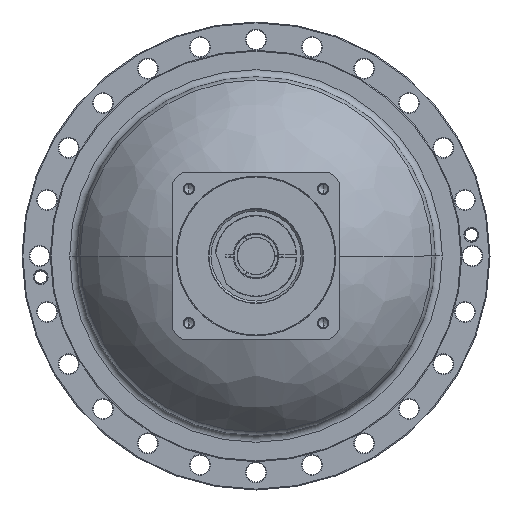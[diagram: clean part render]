
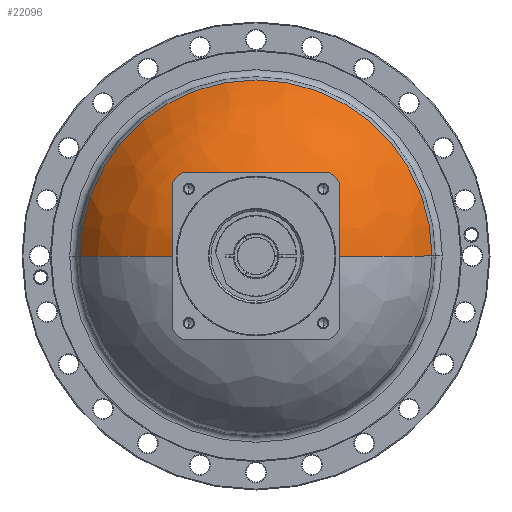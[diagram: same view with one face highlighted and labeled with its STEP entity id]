
A CAD part, left-side view. The second image highlights one B-rep face of the part: STEP entity #22096.
In plain terms, the highlighted free-form (B-spline) face has degree [3, 3] with [7, 4] control points.
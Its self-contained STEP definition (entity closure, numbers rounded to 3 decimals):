
#21604=CARTESIAN_POINT('',(-11.992,0.,0.));
#21605=DIRECTION('',(-1.,0.,0.));
#21606=DIRECTION('',(0.,-1.,0.));
#21607=AXIS2_PLACEMENT_3D('',#21604,#21605,#21606);
#21609=CARTESIAN_POINT('',(-97.009,0.,0.));
#21610=DIRECTION('',(1.,0.,0.));
#21611=DIRECTION('',(0.,1.,0.));
#21612=AXIS2_PLACEMENT_3D('',#21609,#21610,#21611);
#21619=CARTESIAN_POINT('',(-200.939,28.484,0.));
#21620=DIRECTION('',(0.,0.,-1.));
#21621=DIRECTION('',(0.52,0.854,0.));
#21622=AXIS2_PLACEMENT_3D('',#21619,#21620,#21621);
#21629=CARTESIAN_POINT('',(-200.939,-28.484,0.));
#21630=DIRECTION('',(0.,0.,1.));
#21631=DIRECTION('',(0.52,-0.854,0.));
#21632=AXIS2_PLACEMENT_3D('',#21629,#21630,#21631);
#21866=CARTESIAN_POINT('',(-97.009,199.359,
0.));
#21867=CARTESIAN_POINT('',(-97.009,-199.359,0.));
#21868=VERTEX_POINT('',#21866);
#21869=VERTEX_POINT('',#21867);
#21878=CARTESIAN_POINT('',(-11.992,94.05,
0.));
#21879=CARTESIAN_POINT('',(-11.992,-94.05,
0.));
#21880=VERTEX_POINT('',#21878);
#21881=VERTEX_POINT('',#21879);
#22058=CARTESIAN_POINT('',(-99.378,200.382,
-12.607));
#22059=CARTESIAN_POINT('',(-57.233,175.588,
-11.047));
#22060=CARTESIAN_POINT('',(-26.503,137.598,
-8.657));
#22061=CARTESIAN_POINT('',(-11.105,91.254,
-5.741));
#22062=CARTESIAN_POINT('',(-99.378,208.14,
110.708));
#22063=CARTESIAN_POINT('',(-57.233,182.386,
97.01));
#22064=CARTESIAN_POINT('',(-26.503,142.925,
76.021));
#22065=CARTESIAN_POINT('',(-11.105,94.787,
50.416));
#22066=CARTESIAN_POINT('',(-99.378,123.559,
200.778));
#22067=CARTESIAN_POINT('',(-57.233,108.27,
175.935));
#22068=CARTESIAN_POINT('',(-26.503,84.845,
137.87));
#22069=CARTESIAN_POINT('',(-11.105,56.269,
91.435));
#22070=CARTESIAN_POINT('',(-99.378,0.,
200.778));
#22071=CARTESIAN_POINT('',(-57.233,0.,
175.935));
#22072=CARTESIAN_POINT('',(-26.503,0.,137.87));
#22073=CARTESIAN_POINT('',(-11.105,0.,91.435));
#22074=CARTESIAN_POINT('',(-99.378,-123.559,
200.778));
#22075=CARTESIAN_POINT('',(-57.233,-108.27,
175.935));
#22076=CARTESIAN_POINT('',(-26.503,-84.845,
137.87));
#22077=CARTESIAN_POINT('',(-11.105,-56.269,
91.435));
#22078=CARTESIAN_POINT('',(-99.378,-208.14,
110.708));
#22079=CARTESIAN_POINT('',(-57.233,-182.386,
97.01));
#22080=CARTESIAN_POINT('',(-26.503,-142.925,
76.021));
#22081=CARTESIAN_POINT('',(-11.105,-94.787,
50.416));
#22082=CARTESIAN_POINT('',(-99.378,-200.382,
-12.607));
#22083=CARTESIAN_POINT('',(-57.233,-175.588,
-11.047));
#22084=CARTESIAN_POINT('',(-26.503,-137.598,
-8.657));
#22085=CARTESIAN_POINT('',(-11.105,-91.254,
-5.741));
#22086=(BOUNDED_SURFACE()B_SPLINE_SURFACE(3,3,((#22058,#22059,#22060,#22061),(
#22062,#22063,#22064,#22065),(#22066,#22067,#22068,#22069),(#22070,#22071,
#22072,#22073),(#22074,#22075,#22076,#22077),(#22078,#22079,#22080,#22081),(
#22082,#22083,#22084,#22085)),.UNSPECIFIED.,.F.,.F.,.F.)B_SPLINE_SURFACE_WITH_KNOTS((4,3,4),(4,4),(0.,1.,2.),(0.,1.),.UNSPECIFIED.)GEOMETRIC_REPRESENTATION_ITEM()RATIONAL_B_SPLINE_SURFACE(((1.226,1.174,
1.174,1.226),(0.968,0.927,
0.927,0.968),(0.968,0.927,
0.927,0.968),(1.226,1.174,
1.174,1.226),(0.968,0.927,
0.927,0.968),(0.968,0.927,
0.927,0.968),(1.226,1.174,
1.174,1.226)))REPRESENTATION_ITEM('')SURFACE());
#22087=ORIENTED_EDGE('',*,*,#22052,.F.);
#22089=ORIENTED_EDGE('',*,*,#22088,.F.);
#22091=ORIENTED_EDGE('',*,*,#22090,.F.);
#22093=ORIENTED_EDGE('',*,*,#22092,.T.);
#22094=EDGE_LOOP('',(#22087,#22089,#22091,#22093));
#22095=FACE_OUTER_BOUND('',#22094,.F.);
#22096=ADVANCED_FACE('',(#22095),#22086,.T.);
#21608=CIRCLE('',#21607,94.05);
#21613=CIRCLE('',#21612,199.359);
#21623=CIRCLE('',#21622,200.);
#21633=CIRCLE('',#21632,200.);
#22052=EDGE_CURVE('',#21881,#21880,#21608,.T.);
#22088=EDGE_CURVE('',#21869,#21881,#21633,.T.);
#22090=EDGE_CURVE('',#21868,#21869,#21613,.T.);
#22092=EDGE_CURVE('',#21868,#21880,#21623,.T.);
